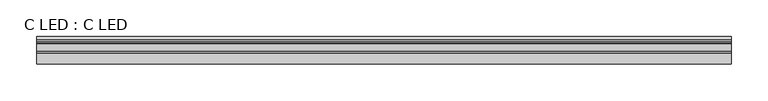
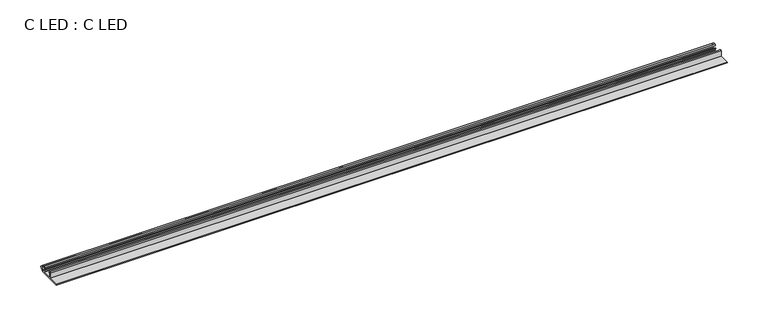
"""IFC4 building model written with IfcOpenShell, lengths in millimetres: proxy geometry, C LED : C LED."""

from ifc_helpers import new_model, si_unit, point, frame, frame_2d, origin, place, context, project, spatial, polyline, circle_curve, trimmed, segment, composite_curve, outline, extrude, source, transform, mapped, element, save


def c_led_c_led_c4f84eb2(model_context):
    return source(origin(), model_context, "Body", "SweptSolid", [
        extrude(outline(composite_curve([segment(polyline([(-16.8000006, 7.8045541), (-16.8000006, 1.1999992), (-3.2940858, 1.1999992), (-3.2940858, 1.9999992)]), True, "CONTINUOUS"), segment(trimmed(circle_curve(frame_2d((-0.6483345, 4.9999992)), 4.0), [point((-3.2940858, 1.9999992))], [point((-4.6483345, 4.9999992))], False, "CARTESIAN"), True, "CONTINUOUS"), segment(polyline([(-4.6483345, 4.9999992), (-3.3983345, 4.9999992)]), True, "CONTINUOUS"), segment(trimmed(circle_curve(frame_2d((-0.6483345, 4.9999992)), 2.75), [point((-3.3983345, 4.9999992))], [point((-2.5928782, 3.0554556))], True, "CARTESIAN"), True, "CONTINUOUS"), segment(trimmed(circle_curve(frame_2d((-0.6483345, 4.9999992)), 2.75), [point((-2.5928782, 3.0554556))], [point((0.655408, 2.5786865))], True, "CARTESIAN"), True, "CONTINUOUS"), segment(trimmed(circle_curve(frame_2d((-0.6483345, 4.9999992)), 2.75), [point((0.655408, 2.5786865))], [point((2.0734708, 5.3927787))], True, "CARTESIAN"), True, "CONTINUOUS"), segment(trimmed(circle_curve(frame_2d((-0.6483345, 4.9999992)), 2.75), [point((2.0734708, 5.3927787))], [point((0.1618837, 7.627935))], True, "CARTESIAN"), True, "CONTINUOUS"), segment(polyline([(0.1618837, 7.627935), (-2.5031066, 7.8740971)]), True, "CONTINUOUS"), segment(trimmed(circle_curve(frame_2d((-2.9000006, 8.8999992)), 1.1), [point((-2.5031066, 7.8740971))], [point((-2.9000006, 9.9999992))], False, "CARTESIAN"), True, "CONTINUOUS"), segment(polyline([(-2.9000006, 9.9999992), (-6e-07, 9.9999992), (4.9999994, 4.9999992), (-6e-07, -8e-07), (-33.0000006, -8e-07), (-33.0000006, 1.1999992), (-18.0000006, 1.1999992), (-18.0000006, 8.8999992)]), True, "CONTINUOUS"), segment(trimmed(circle_curve(frame_2d((-16.9000006, 8.8999992)), 1.1), [point((-18.0000006, 8.8999992))], [point((-16.8000006, 7.8045541))], False, "CARTESIAN"), True, "CONTINUOUS")], self_intersect=False)), frame((1.0, 0.0, 0.0), z_axis=(1.0, 0.0, 0.0), x_axis=(0.0, 1.0, 0.0)), (0.0, 0.0, 1.0), 947.9999992),
    ])


if __name__ == "__main__":
    model = new_model("IFC4")
    model_context = context("Model", 3, world=origin())
    ifc_project = project(units=[si_unit("LENGTHUNIT", "METRE", prefix="MILLI")], contexts=[model_context])
    site = spatial("IfcSite", under=ifc_project)
    building = spatial("IfcBuilding", under=site)
    placement = place(None, origin())
    c_led_c_led_shape = c_led_c_led_c4f84eb2(model_context)
    element("IfcBuildingElementProxy", 1, Name="C LED : C LED", ObjectType="C LED : C LED", at=placement, inside=building, context=model_context, shape_type="MappedRepresentation", body=[
        mapped(c_led_c_led_shape, transform((0.0, 0.0, 0.0), x_axis=(1.0, 0.0, 0.0), y_axis=(0.0, 1.0, 0.0), z_axis=(0.0, 0.0, 1.0))),
    ])
    save(model, "model.ifc")
